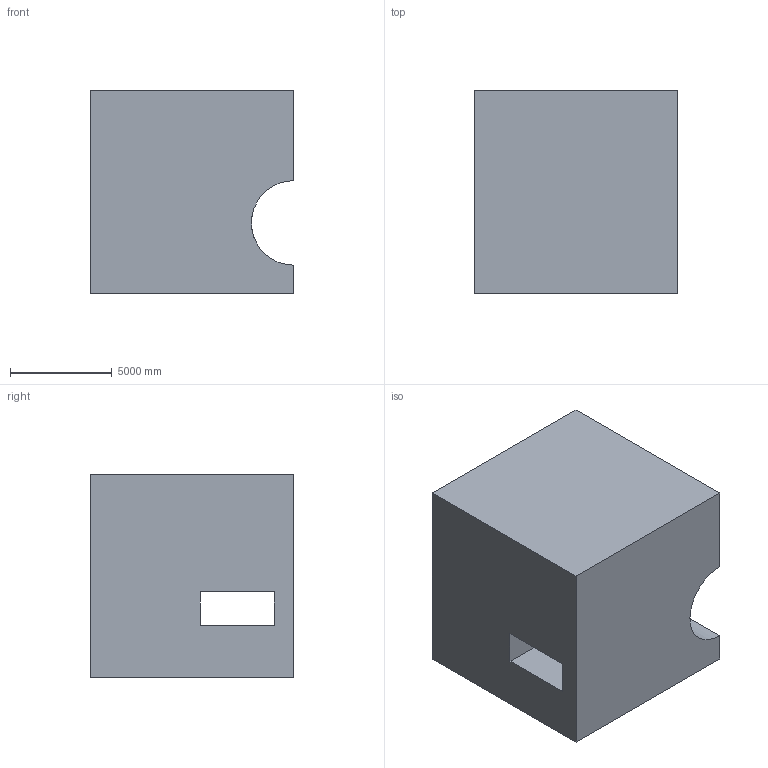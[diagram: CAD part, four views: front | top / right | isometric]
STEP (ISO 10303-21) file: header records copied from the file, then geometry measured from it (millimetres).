
FILE_DESCRIPTION (( 'STEP AP203' ), '1' );
FILE_NAME ('1114.STEP', '2022-08-18T12:48:59', ( 'user' ), ( '' ), 'SwSTEP 2.0', 'SolidWorks 2021', '' );
FILE_SCHEMA (( 'CONFIG_CONTROL_DESIGN' ));
Length unit declared in the file: centimetre
Products named in the file (1): 1114
Bounding box: 10000 x 10000 x 10000 mm (x, y, z)
Volume: 884140774915.1 mm3; surface area: 683369884.9 mm2
Topology: 1 solids, 1 shells, 12 faces, 30 edges, 20 vertices
Faces by surface type: plane 11, cylinder 1
Entity records: 439 total; most frequent: CARTESIAN_POINT 63, DIRECTION 60, ORIENTED_EDGE 60, EDGE_CURVE 30, LINE 26, VECTOR 26, VERTEX_POINT 20, AXIS2_PLACEMENT_3D 17
